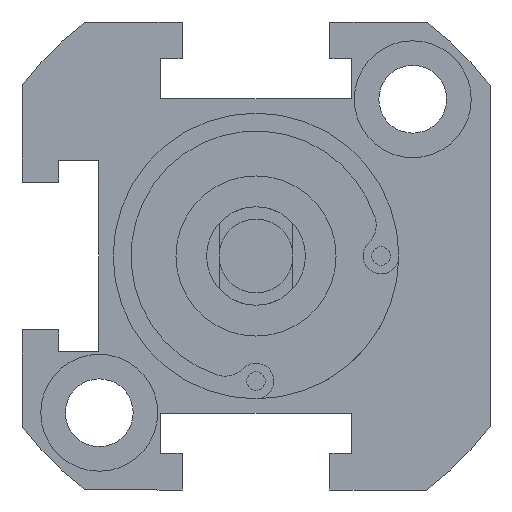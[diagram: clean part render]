
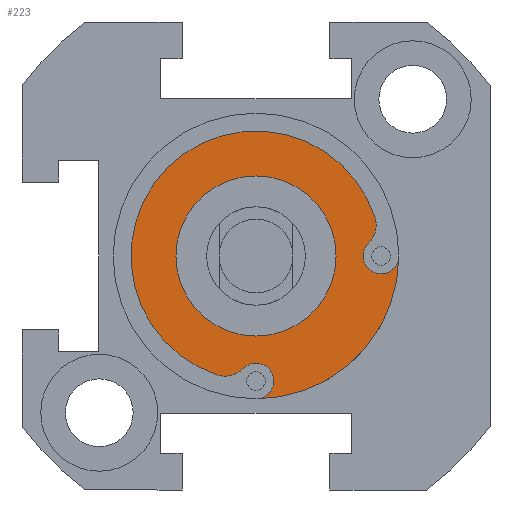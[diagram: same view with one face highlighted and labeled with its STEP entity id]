
A CAD part, front view. The second image highlights one B-rep face of the part: STEP entity #223.
In plain terms, the highlighted planar face has unit normal (0, -1, 0).
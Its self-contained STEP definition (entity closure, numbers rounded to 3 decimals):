
#12 = EDGE_CURVE ( 'NONE', #2695, #1817, #3019, .T. ) ;
#82 = AXIS2_PLACEMENT_3D ( 'NONE', #1178, #2920, #3495 ) ;
#133 = EDGE_CURVE ( 'NONE', #3650, #1295, #3465, .T. ) ;
#223 = ADVANCED_FACE ( 'NONE', ( #739, #687 ), #2562, .T. ) ;
#249 = EDGE_CURVE ( 'NONE', #2373, #746, #3060, .T. ) ;
#254 = CARTESIAN_POINT ( 'NONE',  ( 9.146, -39., 1.046 ) ) ;
#260 = CARTESIAN_POINT ( 'NONE',  ( 0., -39., 0. ) ) ;
#262 = CARTESIAN_POINT ( 'NONE',  ( -3.099, -39., -9.665 ) ) ;
#267 = DIRECTION ( 'NONE',  ( 0., 1., 0. ) ) ;
#350 = DIRECTION ( 'NONE',  ( 0., 0., -1. ) ) ;
#374 = ORIENTED_EDGE ( 'NONE', *, *, #133, .T. ) ;
#408 = CARTESIAN_POINT ( 'NONE',  ( 10.15, -39., -1.45 ) ) ;
#515 = DIRECTION ( 'NONE',  ( 0., 1., 0. ) ) ;
#532 = CARTESIAN_POINT ( 'NONE',  ( -2.489, -39., -7.761 ) ) ;
#601 = CARTESIAN_POINT ( 'NONE',  ( 9.665, -39., 3.099 ) ) ;
#613 = DIRECTION ( 'NONE',  ( 0., 1., 0. ) ) ;
#652 = AXIS2_PLACEMENT_3D ( 'NONE', #1935, #3365, #1052 ) ;
#687 = FACE_OUTER_BOUND ( 'NONE', #2690, .T. ) ;
#739 = FACE_BOUND ( 'NONE', #2449, .T. ) ;
#746 = VERTEX_POINT ( 'NONE', #601 ) ;
#753 = EDGE_CURVE ( 'NONE', #1295, #2095, #896, .T. ) ;
#790 = AXIS2_PLACEMENT_3D ( 'NONE', #2019, #1172, #3488 ) ;
#797 = DIRECTION ( 'NONE',  ( 0., -1., 0. ) ) ;
#896 = CIRCLE ( 'NONE', #82, 1.45 ) ;
#984 = VERTEX_POINT ( 'NONE', #262 ) ;
#1029 = ORIENTED_EDGE ( 'NONE', *, *, #249, .T. ) ;
#1052 = DIRECTION ( 'NONE',  ( 0., 0., 1. ) ) ;
#1071 = DIRECTION ( 'NONE',  ( 0., 0., 1. ) ) ;
#1103 = CARTESIAN_POINT ( 'NONE',  ( 10.15, -39., 0. ) ) ;
#1146 = AXIS2_PLACEMENT_3D ( 'NONE', #1449, #613, #1429 ) ;
#1172 = DIRECTION ( 'NONE',  ( 0., 1., 0. ) ) ;
#1178 = CARTESIAN_POINT ( 'NONE',  ( 0., -39., -10.15 ) ) ;
#1191 = CIRCLE ( 'NONE', #790, 6.5 ) ;
#1202 = AXIS2_PLACEMENT_3D ( 'NONE', #1349, #797, #2786 ) ;
#1209 = ORIENTED_EDGE ( 'NONE', *, *, #2443, .T. ) ;
#1251 = ORIENTED_EDGE ( 'NONE', *, *, #753, .T. ) ;
#1275 = CARTESIAN_POINT ( 'NONE',  ( 0., -39., -11.6 ) ) ;
#1278 = CIRCLE ( 'NONE', #1202, 2. ) ;
#1295 = VERTEX_POINT ( 'NONE', #3207 ) ;
#1340 = ORIENTED_EDGE ( 'NONE', *, *, #2646, .T. ) ;
#1349 = CARTESIAN_POINT ( 'NONE',  ( -2.489, -39., -7.761 ) ) ;
#1424 = ORIENTED_EDGE ( 'NONE', *, *, #3397, .T. ) ;
#1425 = AXIS2_PLACEMENT_3D ( 'NONE', #2960, #1477, #350 ) ;
#1429 = DIRECTION ( 'NONE',  ( 0., 0., 1. ) ) ;
#1433 = AXIS2_PLACEMENT_3D ( 'NONE', #1796, #2087, #2348 ) ;
#1449 = CARTESIAN_POINT ( 'NONE',  ( 10.15, -39., 0. ) ) ;
#1477 = DIRECTION ( 'NONE',  ( 0., -1., 0. ) ) ;
#1478 = ORIENTED_EDGE ( 'NONE', *, *, #3420, .F. ) ;
#1513 = VERTEX_POINT ( 'NONE', #1692 ) ;
#1656 = DIRECTION ( 'NONE',  ( 0., 0., 1. ) ) ;
#1657 = AXIS2_PLACEMENT_3D ( 'NONE', #260, #515, #1656 ) ;
#1692 = CARTESIAN_POINT ( 'NONE',  ( 11.6, -39., 0. ) ) ;
#1698 = DIRECTION ( 'NONE',  ( 0., -1., 0. ) ) ;
#1705 = EDGE_CURVE ( 'NONE', #1513, #2095, #2387, .T. ) ;
#1796 = CARTESIAN_POINT ( 'NONE',  ( 0., -39., 0. ) ) ;
#1817 = VERTEX_POINT ( 'NONE', #2669 ) ;
#1935 = CARTESIAN_POINT ( 'NONE',  ( 0., -39., 0. ) ) ;
#2007 = VERTEX_POINT ( 'NONE', #408 ) ;
#2009 = ORIENTED_EDGE ( 'NONE', *, *, #1705, .F. ) ;
#2019 = CARTESIAN_POINT ( 'NONE',  ( 0., -39., 0. ) ) ;
#2087 = DIRECTION ( 'NONE',  ( 0., 1., 0. ) ) ;
#2095 = VERTEX_POINT ( 'NONE', #1275 ) ;
#2127 = ORIENTED_EDGE ( 'NONE', *, *, #3082, .T. ) ;
#2348 = DIRECTION ( 'NONE',  ( 0., 0., 1. ) ) ;
#2373 = VERTEX_POINT ( 'NONE', #254 ) ;
#2387 = CIRCLE ( 'NONE', #1433, 11.6 ) ;
#2443 = EDGE_CURVE ( 'NONE', #1817, #2695, #1191, .T. ) ;
#2449 = EDGE_LOOP ( 'NONE', ( #3643, #1209 ) ) ;
#2514 = DIRECTION ( 'NONE',  ( 0., -1., 0. ) ) ;
#2525 = DIRECTION ( 'NONE',  ( 0., 0., -1. ) ) ;
#2549 = AXIS2_PLACEMENT_3D ( 'NONE', #1103, #267, #1071 ) ;
#2562 = PLANE ( 'NONE',  #3685 ) ;
#2564 = CARTESIAN_POINT ( 'NONE',  ( 0., -39., -6.5 ) ) ;
#2634 = AXIS2_PLACEMENT_3D ( 'NONE', #532, #2514, #2525 ) ;
#2646 = EDGE_CURVE ( 'NONE', #2007, #2373, #2725, .T. ) ;
#2653 = CARTESIAN_POINT ( 'NONE',  ( -2.489, -39., -9.761 ) ) ;
#2669 = CARTESIAN_POINT ( 'NONE',  ( 0., -39., 6.5 ) ) ;
#2690 = EDGE_LOOP ( 'NONE', ( #2127, #1340, #1029, #1478, #1424, #374, #1251, #2009 ) ) ;
#2695 = VERTEX_POINT ( 'NONE', #2564 ) ;
#2725 = CIRCLE ( 'NONE', #1146, 1.45 ) ;
#2761 = CIRCLE ( 'NONE', #652, 10.15 ) ;
#2786 = DIRECTION ( 'NONE',  ( 0., 0., -1. ) ) ;
#2864 = CARTESIAN_POINT ( 'NONE',  ( 0., -39., 0. ) ) ;
#2880 = DIRECTION ( 'NONE',  ( 0., 0., 1. ) ) ;
#2920 = DIRECTION ( 'NONE',  ( 0., 1., 0. ) ) ;
#2960 = CARTESIAN_POINT ( 'NONE',  ( 7.761, -39., 2.489 ) ) ;
#3019 = CIRCLE ( 'NONE', #1657, 6.5 ) ;
#3060 = CIRCLE ( 'NONE', #1425, 2. ) ;
#3082 = EDGE_CURVE ( 'NONE', #1513, #2007, #3223, .T. ) ;
#3207 = CARTESIAN_POINT ( 'NONE',  ( -1.046, -39., -9.146 ) ) ;
#3223 = CIRCLE ( 'NONE', #2549, 1.45 ) ;
#3365 = DIRECTION ( 'NONE',  ( 0., 1., 0. ) ) ;
#3397 = EDGE_CURVE ( 'NONE', #984, #3650, #1278, .T. ) ;
#3420 = EDGE_CURVE ( 'NONE', #984, #746, #2761, .T. ) ;
#3465 = CIRCLE ( 'NONE', #2634, 2. ) ;
#3488 = DIRECTION ( 'NONE',  ( 0., 0., 1. ) ) ;
#3495 = DIRECTION ( 'NONE',  ( 0., 0., 1. ) ) ;
#3643 = ORIENTED_EDGE ( 'NONE', *, *, #12, .T. ) ;
#3650 = VERTEX_POINT ( 'NONE', #2653 ) ;
#3685 = AXIS2_PLACEMENT_3D ( 'NONE', #2864, #1698, #2880 ) ;
